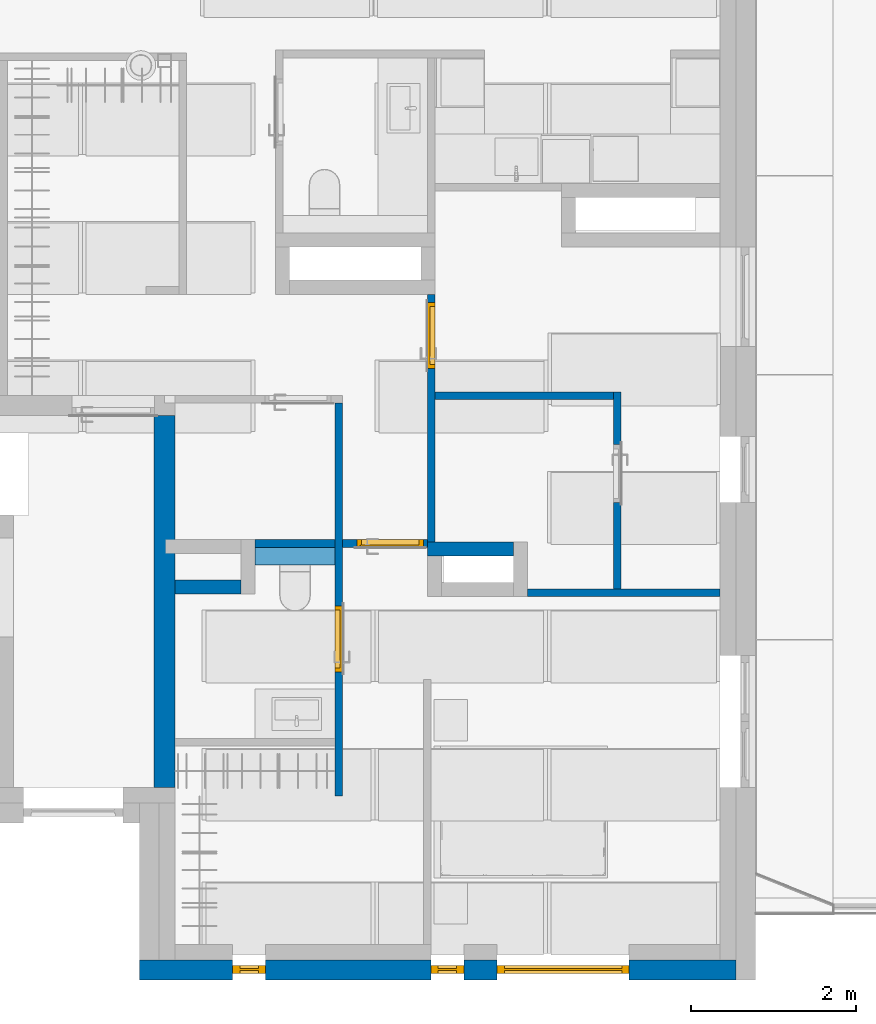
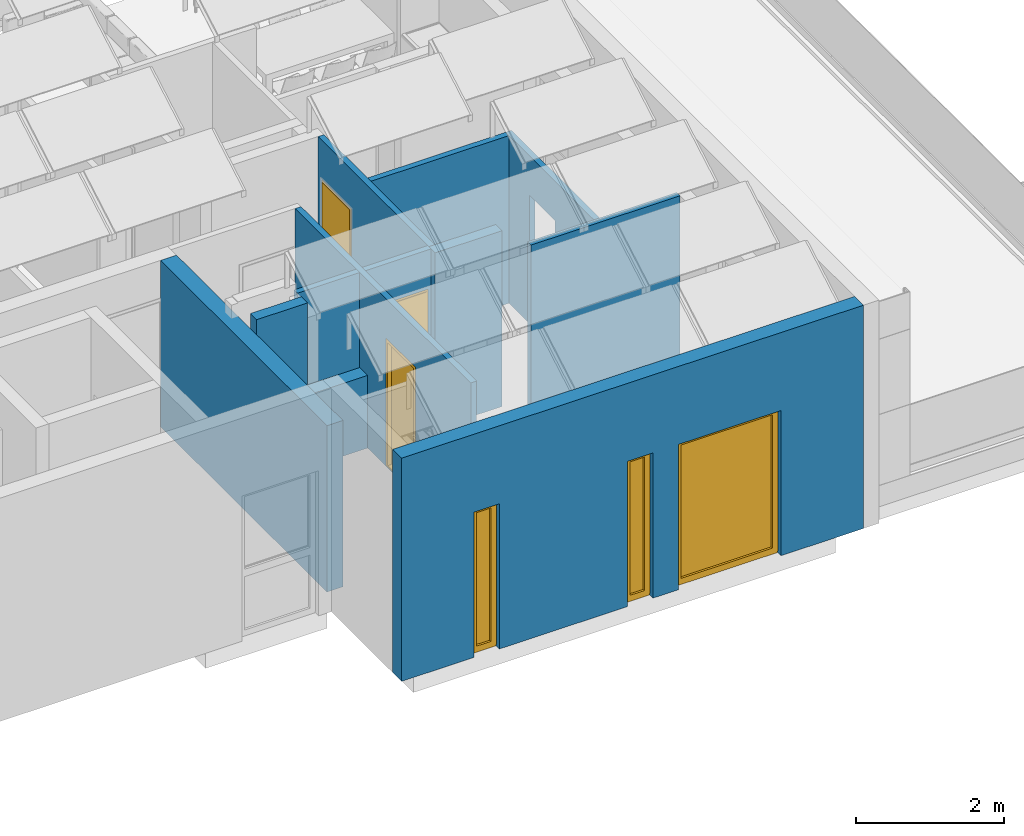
# One storey, part 3 of 57: 11 walls, 3 doors, 3 windows, 8 openings.
"""IFC2X3 building model written with IfcOpenShell, lengths in millimetres."""

import ifcopenshell
import ifcopenshell.guid

model = None  # the IFC model being written
_history = None  # IfcOwnerHistory: only IFC2X3 demands one
_inside = {}  # id of a spatial element -> (the spatial element, [elements in it])
_under = {}  # id of a project, library or spatial element -> (it, [spatial elements below it])
_declared = {}  # id of a project -> (the project, [libraries it declares])
_typed = {}  # id of a type object -> (the type object, [elements of that type])
_made_of = {}  # id of a material, layer set ... -> (it, [elements and type objects made of it])


def new_model(schema):
    """Start an empty IFC model of exactly this schema.

    Asked for "IFC4X3", IfcOpenShell would pick the latest addendum, in which some entities
    have other attributes; the version numbers below select the first issue.
    IFC2X3 requires an IfcOwnerHistory on every rooted entity: one is made here for all.
    """
    global model, _history
    if schema == "IFC4X3":
        model = ifcopenshell.file(schema_version=(4, 3, 0, 0))
    else:
        model = ifcopenshell.file(schema=schema)
    _inside.clear()
    _under.clear()
    _declared.clear()
    _typed.clear()
    _made_of.clear()
    _history = None
    if model.schema == "IFC2X3":
        org = make("IfcOrganization", Name="unknown")
        user = make(
            "IfcPersonAndOrganization",
            ThePerson=make("IfcPerson", FamilyName="unknown"),
            TheOrganization=org,
        )
        app = make(
            "IfcApplication",
            ApplicationDeveloper=org,
            Version="unknown",
            ApplicationFullName="unknown",
            ApplicationIdentifier="unknown",
        )
        _history = make(
            "IfcOwnerHistory",
            OwningUser=user,
            OwningApplication=app,
            ChangeAction="ADDED",
            CreationDate=0,
        )
    return model


def make(cls, **values):
    """One entity of the class cls with the attributes given. An attribute that is None is left unset."""
    return model.create_entity(
        cls, **{name: value for name, value in values.items() if value is not None}
    )


def entity(cls, *values):
    """Any entity or typed value of the class cls, its attributes in the order of the schema. None: left unset."""
    e = model.create_entity(cls)
    for i, value in enumerate(values):
        if value is not None:
            e[i] = value
    return e


def rooted(cls, **values):
    """An entity with a GlobalId (a new one), such as an element, a storey or a relation."""
    return make(cls, GlobalId=ifcopenshell.guid.new(), OwnerHistory=_history, **values)


def si_unit(unit_type, name, prefix=None):
    """IfcSIUnit, for example si_unit("LENGTHUNIT", "METRE", prefix="MILLI")."""
    return make("IfcSIUnit", UnitType=unit_type, Prefix=prefix, Name=name)


def converted_unit(unit_type, name, factor, base, dimensions=None, offset=None):
    """IfcConversionBasedUnit, such as the inch: factor (a typed value) times the base unit."""
    return make(
        "IfcConversionBasedUnit"
        if offset is None
        else "IfcConversionBasedUnitWithOffset",
        ConversionOffset=offset,
        Dimensions=None
        if dimensions is None
        else entity("IfcDimensionalExponents", *dimensions),
        UnitType=unit_type,
        Name=name,
        ConversionFactor=make(
            "IfcMeasureWithUnit", ValueComponent=factor, UnitComponent=base
        ),
    )


def assignment(units):
    """IfcUnitAssignment: the units of a project."""
    return None if units is None else make("IfcUnitAssignment", Units=units)


def point(xyz):
    """IfcCartesianPoint."""
    return None if xyz is None else make("IfcCartesianPoint", Coordinates=xyz)


def direction(xyz):
    """IfcDirection."""
    return None if xyz is None else make("IfcDirection", DirectionRatios=xyz)


def frame(location, z_axis=None, x_axis=None):
    """IfcAxis2Placement3D, a coordinate frame: its origin and axes. An axis left out is left unset."""
    return make(
        "IfcAxis2Placement3D",
        Location=point(location),
        Axis=direction(z_axis),
        RefDirection=direction(x_axis),
    )


def frame_2d(location, x_axis=None):
    """IfcAxis2Placement2D, a coordinate frame in the plane: its origin and x axis."""
    return make(
        "IfcAxis2Placement2D", Location=point(location), RefDirection=direction(x_axis)
    )


def origin():
    """The frame at (0, 0, 0) with its axes left unset."""
    return frame((0.0, 0.0, 0.0))


def place(relative_to, where):
    """IfcLocalPlacement: puts the frame where relative to a parent placement (None: the world)."""
    return make(
        "IfcLocalPlacement", PlacementRelTo=relative_to, RelativePlacement=where
    )


def context(
    kind, dimensions, precision=None, world=None, true_north=None, identifier=None
):
    """IfcGeometricRepresentationContext, for example the 3D "Model" context."""
    return make(
        "IfcGeometricRepresentationContext",
        ContextIdentifier=identifier,
        ContextType=kind,
        CoordinateSpaceDimension=dimensions,
        Precision=precision,
        WorldCoordinateSystem=world,
        TrueNorth=true_north,
    )


def subcontext(parent, identifier, kind, view, scale=None):
    """IfcGeometricRepresentationSubContext, for example "Body" below "Model"."""
    return make(
        "IfcGeometricRepresentationSubContext",
        ContextIdentifier=identifier,
        ContextType=kind,
        ParentContext=parent,
        TargetScale=scale,
        TargetView=view,
    )


def project(units=None, contexts=None):
    """IfcProject with its units and contexts."""
    return rooted(
        "IfcProject",
        Name="project",
        RepresentationContexts=contexts,
        UnitsInContext=assignment(units),
    )


def spatial(cls, under=None, at=None, **own):
    """A site, building, storey or space (cls), placed at a placement, below another one or the project."""
    s = rooted(cls, ObjectPlacement=at, **own)
    if under is not None:
        _under.setdefault(under.id(), (under, []))[1].append(s)
    return s


def profile(cls, at=None, kind="AREA", **sizes):
    """A parametric profile (cls). Its sizes go by their IFC names, for example OverallWidth=200.0."""
    return make(cls, ProfileType=kind, Position=at, **sizes)


def rectangle(**sizes):
    """IfcRectangleProfileDef."""
    return profile("IfcRectangleProfileDef", **sizes)


def extrude(swept, where, along, depth):
    """IfcExtrudedAreaSolid: the profile swept, set in the frame where, extruded along a direction by depth."""
    return make(
        "IfcExtrudedAreaSolid",
        SweptArea=swept,
        Position=where,
        ExtrudedDirection=direction(along),
        Depth=depth,
    )


def faces_of(points, faces, orient=None, outer=None):
    """IfcFace entities. A face is a list of loops; a loop is a list of indices into points, from 0.

    orient and outer hold one flag for each loop. By default every Orientation is true, the
    first loop of a face is its IfcFaceOuterBound and the others are IfcFaceBound.
    """
    made = []
    for i, loops in enumerate(faces):
        bounds = []
        for j, loop in enumerate(loops):
            is_outer = j == 0 if outer is None else outer[i][j]
            bounds.append(
                make(
                    "IfcFaceOuterBound" if is_outer else "IfcFaceBound",
                    Bound=make("IfcPolyLoop", Polygon=[points[k] for k in loop]),
                    Orientation=True if orient is None else orient[i][j],
                )
            )
        made.append(make("IfcFace", Bounds=bounds))
    return made


def faceted_brep(points, faces, orient=None, outer=None, voids=None):
    """IfcFacetedBrep: a solid bounded by flat faces; with voids (closed shells), ...WithVoids."""
    shared = [point(p) for p in points]
    hull = make("IfcClosedShell", CfsFaces=faces_of(shared, faces, orient, outer))
    if voids is None:
        return make("IfcFacetedBrep", Outer=hull)
    return make(
        "IfcFacetedBrepWithVoids",
        Outer=hull,
        Voids=[
            make(cls, CfsFaces=faces_of(shared, fs, o, b)) for cls, fs, o, b in voids
        ],
    )


def shape(context_of_items, identifier, shape_type, items):
    """IfcShapeRepresentation: the items that make up one representation, for example the "Body"."""
    return make(
        "IfcShapeRepresentation",
        ContextOfItems=context_of_items,
        RepresentationIdentifier=identifier,
        RepresentationType=shape_type,
        Items=items,
    )


def source(mapping_origin, context_of_items, identifier, shape_type, items):
    """IfcRepresentationMap: a shape defined once, which mapped items show again and again."""
    return make(
        "IfcRepresentationMap",
        MappingOrigin=mapping_origin,
        MappedRepresentation=shape(context_of_items, identifier, shape_type, items),
    )


def transform(
    local_origin,
    x_axis=None,
    y_axis=None,
    z_axis=None,
    scale=None,
    scale2=None,
    scale3=None,
    uniform=True,
):
    """IfcCartesianTransformationOperator3D, or its non-uniform kind. x_axis, y_axis, z_axis: its Axis1, 2, 3."""
    if uniform:
        return make(
            "IfcCartesianTransformationOperator3D",
            Axis1=direction(x_axis),
            Axis2=direction(y_axis),
            LocalOrigin=point(local_origin),
            Scale=scale,
            Axis3=direction(z_axis),
        )
    return make(
        "IfcCartesianTransformationOperator3DnonUniform",
        Axis1=direction(x_axis),
        Axis2=direction(y_axis),
        LocalOrigin=point(local_origin),
        Scale=scale,
        Axis3=direction(z_axis),
        Scale2=scale2,
        Scale3=scale3,
    )


def mapped(mapping_source, mapping_target):
    """IfcMappedItem: shows the shape of a source again, moved by a transform."""
    return make(
        "IfcMappedItem", MappingSource=mapping_source, MappingTarget=mapping_target
    )


def material(Name=None, Category=None):
    """IfcMaterial."""
    return make("IfcMaterial", Name=Name, Category=Category)


def material_list(materials):
    """IfcMaterialList."""
    return make("IfcMaterialList", Materials=materials)


def layer(
    of_material, thickness, ventilated=None, Name=None, Category=None, Priority=None
):
    """IfcMaterialLayer: one layer of a wall or slab, of a material (None: an air gap)."""
    return make(
        "IfcMaterialLayer",
        Material=of_material,
        LayerThickness=thickness,
        IsVentilated=ventilated,
        Name=Name,
        Category=Category,
        Priority=Priority,
    )


def layer_set(layers, Name=None):
    """IfcMaterialLayerSet."""
    return make("IfcMaterialLayerSet", MaterialLayers=layers, LayerSetName=Name)


def layer_usage(for_layer_set, set_direction, sense, offset, extent=None):
    """IfcMaterialLayerSetUsage: how a layer set lies in its element."""
    return make(
        "IfcMaterialLayerSetUsage",
        ForLayerSet=for_layer_set,
        LayerSetDirection=set_direction,
        DirectionSense=sense,
        OffsetFromReferenceLine=offset,
        ReferenceExtent=extent,
    )


def made_of(thing, what):
    """Note that an element or type object is made of a material, layer set ...; save() writes the relation."""
    if what is not None:
        _made_of.setdefault(what.id(), (what, []))[1].append(thing)
    return thing


def type_object(cls, material=None, **own):
    """A type object (cls), such as IfcWallType, which elements share."""
    return made_of(rooted(cls, **own), material)


def type_shapes(of_type, sources):
    """Give a type object the sources (RepresentationMaps) that its elements show as mapped items."""
    of_type.RepresentationMaps = sources


def element(
    cls,
    number,
    at=None,
    inside=None,
    cuts=None,
    type_object=None,
    material=None,
    context=None,
    identifier="Body",
    shape_type=None,
    held_by="IfcProductDefinitionShape",
    body=None,
    shapes=None,
    **own,
):
    """One element of the class cls, such as IfcWall. Its Tag is "e" and its number.

    at: its placement. inside: the storey or other place that contains it. cuts: it is an
    opening in that element (IfcRelVoidsElement). A single representation is given by context,
    identifier, shape_type and body (its items); several are given by shapes. held_by: the class
    of the entity that holds the representations. save() writes the other relations.
    """
    e = rooted(cls, Tag="e%d" % number, ObjectPlacement=at, **own)
    if body is not None:
        shapes = [shape(context, identifier, shape_type, body)]
    if shapes is not None:
        e.Representation = make(held_by, Representations=shapes)
    if inside is not None:
        _inside.setdefault(inside.id(), (inside, []))[1].append(e)
    if cuts is not None:
        rooted(
            "IfcRelVoidsElement", RelatingBuildingElement=cuts, RelatedOpeningElement=e
        )
    if type_object is not None:
        _typed.setdefault(type_object.id(), (type_object, []))[1].append(e)
    return made_of(e, material)


def fill(opening, filler):
    """IfcRelFillsElement: the door or window that sits in an opening."""
    return rooted(
        "IfcRelFillsElement",
        RelatingOpeningElement=opening,
        RelatedBuildingElement=filler,
    )


def aggregate(whole, parts):
    """IfcRelAggregates: a whole, such as a stair, and the parts it consists of."""
    return rooted("IfcRelAggregates", RelatingObject=whole, RelatedObjects=parts)


def save(model, path):
    """Write the relations noted so far, then the file.

    IfcRelAggregates (storeys below a building ...), IfcRelContainedInSpatialStructure (elements
    in a storey), IfcRelDefinesByType, IfcRelAssociatesMaterial and IfcRelDeclares: one each for
    every whole, place, type object, material and project.
    """
    for whole, parts in _under.values():
        aggregate(whole, parts)
    for where, things in _inside.values():
        rooted(
            "IfcRelContainedInSpatialStructure",
            RelatedElements=things,
            RelatingStructure=where,
        )
    for kind, things in _typed.values():
        rooted("IfcRelDefinesByType", RelatedObjects=things, RelatingType=kind)
    for what, things in _made_of.values():
        rooted("IfcRelAssociatesMaterial", RelatedObjects=things, RelatingMaterial=what)
    for by, libraries in _declared.values():
        rooted("IfcRelDeclares", RelatingContext=by, RelatedDefinitions=libraries)
    model.write(path)


model = new_model("IFC2X3")

# Units and contexts
model_context = context("Model", 3, precision=0.01, world=origin(), true_north=direction((6.123233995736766e-17, 1.0)))
plan_context = context("Plan", 3, precision=0.01, world=origin(), true_north=direction((6.123233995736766e-17, 1.0)))
body_context = subcontext(model_context, "Body", "Model", "MODEL_VIEW")
ifc_project = project(units=[si_unit("LENGTHUNIT", "METRE", prefix="MILLI"), converted_unit("PLANEANGLEUNIT", "DEGREE", entity("IfcPlaneAngleMeasure", 0.017453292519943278), si_unit("PLANEANGLEUNIT", "RADIAN"), dimensions=[0, 0, 0, 0, 0, 0, 0]), si_unit("AREAUNIT", "SQUARE_METRE")], contexts=[model_context, plan_context])

# Site, building, storey
site_placement = place(None, origin())
site = spatial("IfcSite", under=ifc_project, at=site_placement, Name="Default", CompositionType="ELEMENT")
building_placement = place(site_placement, origin())
building = spatial("IfcBuilding", under=site, at=building_placement, CompositionType="ELEMENT")
storey_placement = place(building_placement, frame((0.0, 0.0, 12811.000000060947)))
storey = spatial("IfcBuildingStorey", under=building, at=storey_placement, Name="5K", CompositionType="ELEMENT", Elevation=12811.000000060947)

# Wall
ifc_material_1 = material(Name="_K. Väisviimistlus. Krohv. Valge")
ifc_layer_1 = layer(ifc_material_1, 5.0)
ifc_material_2 = material(Name="_K. Müüritis. Väikeplokk. Betoon-õõnesplokk")
ifc_layer_2 = layer(ifc_material_2, 240.0)
ifc_layer_3 = layer(ifc_material_1, 5.0)
ifc_layer_set_1 = layer_set([ifc_layer_1, ifc_layer_2, ifc_layer_3], Name="Basic Wall:SS-01.240")
ifc_layer_usage_1 = layer_usage(ifc_layer_set_1, "AXIS2", "NEGATIVE", 125.00000000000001)
wall_type_1 = type_object("IfcWallType", Name="Basic Wall:SS-01.240", PredefinedType="STANDARD", material=ifc_layer_set_1)
wall_1_placement = place(storey_placement, frame((5174.995060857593, 1900.0, 0.0), z_axis=(0.0, 0.0, 1.0), x_axis=(0.0, 1.0, 0.0)))
element("IfcWallStandardCase", 1, at=wall_1_placement, inside=storey, type_object=wall_type_1, material=ifc_layer_usage_1, Name="Basic Wall:SS-01.240", ObjectType="Basic Wall:SS-01.240", context=body_context, shape_type="SweptSolid", body=[
    extrude(rectangle(XDim=4504.999959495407, YDim=249.9999999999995, at=frame_2d((2252.4999797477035, 5.684341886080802e-14), x_axis=(-1.0, 0.0))), origin(), (0.0, 0.0, 1.0), 2749.998712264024),
])

# Wall, openings, windows
ifc_layer_4 = layer(ifc_material_1, 10.0)
ifc_material_3 = material(Name="_K. Soojustus. EPS Silver")
ifc_layer_5 = layer(ifc_material_3, 230.0)
ifc_layer_set_2 = layer_set([ifc_layer_4, ifc_layer_5], Name="Basic Wall:VS-01")
ifc_layer_usage_2 = layer_usage(ifc_layer_set_2, "AXIS2", "NEGATIVE", 120.0)
wall_type_2 = type_object("IfcWallType", Name="Basic Wall:VS-01", PredefinedType="STANDARD", material=ifc_layer_set_2)
wall_2_placement = place(storey_placement, frame((12090.0, -310.0, 0.0), z_axis=(0.0, 0.0, 1.0), x_axis=(-1.0, 0.0, 0.0)))
wall_2 = element("IfcWallStandardCase", 2, at=wall_2_placement, inside=storey, type_object=wall_type_2, material=ifc_layer_usage_2, Name="Basic Wall:VS-01", ObjectType="Basic Wall:VS-01", context=body_context, shape_type="SweptSolid", body=[
    extrude(rectangle(XDim=7220.000000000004, YDim=240.00000000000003, at=frame_2d((3610.000000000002, 1.4210854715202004e-14), x_axis=(-1.0, 0.0))), origin(), (0.0, 0.0, 1.0), 3688.9999999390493),
])
opening_1_placement = place(wall_2_placement, frame((12090.0, -310.0, 0.0), z_axis=(0.0, 0.0, 1.0), x_axis=(-1.0, 0.0, 0.0)))
opening_1 = element("IfcOpeningElement", 3, at=opening_1_placement, cuts=wall_2, Name="Basic Wall:VS-01", ObjectType="Opening", context=body_context, shape_type="Brep", body=[
    faceted_brep([(6000.0, -450.0, 2400.0), (6000.0, 244.0, 2400.0), (6000.0, 244.0, 0.0), (6000.0, -340.0, 0.0), (6000.0, -350.0, 0.0), (6000.0, -450.0, 0.0), (6400.0, -450.0, 2400.0), (6400.0, 244.0, 2400.0), (6400.0, -450.0, 0.0), (6400.0, -350.0, 0.0), (6400.0, -340.0, 0.0), (6400.0, 244.0, 0.0)], [[[0, 1, 2, 3, 4, 5]], [[6, 7, 1, 0]], [[8, 9, 10, 11, 7, 6]], [[5, 4, 3, 2, 11, 10, 9, 8]], [[6, 0, 5, 8]], [[7, 11, 2, 1]]]),
])
opening_2_placement = place(wall_2_placement, frame((12090.0, -310.0, 0.0), z_axis=(0.0, 0.0, 1.0), x_axis=(-1.0, 0.0, 0.0)))
opening_2 = element("IfcOpeningElement", 4, at=opening_2_placement, cuts=wall_2, Name="Basic Wall:VS-01", ObjectType="Opening", context=body_context, shape_type="Brep", body=[
    faceted_brep([(8400.0, -450.0, 2400.0), (8400.0, 244.0, 2400.0), (8400.0, 244.0, 0.0), (8400.0, -340.0, 0.0), (8400.0, -350.0, 0.0), (8400.0, -450.0, 0.0), (8800.0, -450.0, 2400.0), (8800.0, 244.0, 2400.0), (8800.0, -450.0, 0.0), (8800.0, -350.0, 0.0), (8800.0, -340.0, 0.0), (8800.0, 244.0, 0.0)], [[[0, 1, 2, 3, 4, 5]], [[6, 7, 1, 0]], [[8, 9, 10, 11, 7, 6]], [[5, 4, 3, 2, 11, 10, 9, 8]], [[6, 0, 5, 8]], [[7, 11, 2, 1]]]),
])
opening_3_placement = place(wall_2_placement, frame((12090.0, -310.0, 0.0), z_axis=(0.0, 0.0, 1.0), x_axis=(-1.0, 0.0, 0.0)))
opening_3 = element("IfcOpeningElement", 5, at=opening_3_placement, cuts=wall_2, Name="Basic Wall:VS-01", ObjectType="Opening", context=body_context, shape_type="Brep", body=[
    faceted_brep([(9200.0, -450.0, 2400.0), (9200.0, 244.0, 2400.0), (9200.0, 244.0, 0.0), (9200.0, -340.0, 0.0), (9200.0, -350.0, 0.0), (9200.0, -450.0, 0.0), (10800.0, -450.0, 2400.0), (10800.0, 244.0, 2400.0), (10800.0, -450.0, 0.0), (10800.0, -350.0, 0.0), (10800.0, -340.0, 0.0), (10800.0, 244.0, 0.0)], [[[0, 1, 2, 3, 4, 5]], [[6, 7, 1, 0]], [[8, 9, 10, 11, 7, 6]], [[5, 4, 3, 2, 11, 10, 9, 8]], [[6, 0, 5, 8]], [[7, 11, 2, 1]]]),
])
ifc_material_4 = material(Name="_K. Avatäited. Raam. PVC. Valge")
ifc_material_5 = material(Name="_K. Klaas. Pakett")
ifc_material_6 = material(Name="_K. Avatäited. Raam. PVC. RAL9005")
ifc_material_list = material_list([ifc_material_4, ifc_material_5, ifc_material_6])
window_style_1 = type_object("IfcWindowStyle", Name="HR_Window_Generic_Rectangle_1x1:A-01.400x2400.ma", ConstructionType="NOTDEFINED", OperationType="NOTDEFINED", ParameterTakesPrecedence=False, Sizeable=False, material=ifc_material_list)
shared_shape_1 = source(origin(), body_context, "Body", "Brep", [
    faceted_brep([(88.0, -194.0, 2312.0), (312.0, -194.0, 2312.0), (312.0, -194.0, 108.0), (88.0, -194.0, 108.0), (342.0, -194.0, 2342.0), (58.0, -194.0, 2342.0), (58.0, -194.0, 78.0), (342.0, -194.0, 78.0), (88.0, -159.0, 2312.0), (88.0, -159.0, 108.0), (312.0, -159.0, 108.0), (342.0, -159.0, 2342.0), (342.0, -159.0, 78.0), (58.0, -159.0, 78.0), (58.0, -159.0, 2342.0), (312.0, -159.0, 2312.0)], [[[0, 1, 2, 3], [4, 5, 6, 7]], [[8, 0, 3, 9]], [[9, 3, 2, 10]], [[11, 12, 13, 14], [15, 8, 9, 10]], [[1, 15, 10, 2]], [[6, 5, 14, 13]], [[7, 6, 13, 12]], [[4, 7, 12, 11]], [[15, 1, 0, 8]], [[5, 4, 11, 14]]], outer=[[False, True], [True], [True], [True, False], [True], [True], [True], [True], [True], [True]]),
    faceted_brep([(342.0, -159.0, 2342.0), (58.0, -159.0, 2342.0), (58.0, -159.0, 78.0), (342.0, -159.0, 78.0), (58.0, -134.0, 2342.0), (58.0, -134.0, 78.0), (342.0, -134.0, 78.0), (342.0, -134.0, 2342.0)], [[[0, 1, 2, 3]], [[2, 1, 4, 5]], [[3, 2, 5, 6]], [[0, 3, 6, 7]], [[7, 6, 5, 4]], [[1, 0, 7, 4]]]),
    faceted_brep([(342.0, -134.0, 78.0), (58.0, -134.0, 78.0), (58.0, -194.0, 78.0), (342.0, -194.0, 78.0), (58.0, -134.0, 2342.0), (58.0, -194.0, 2342.0), (342.0, -134.0, 2342.0), (342.0, -194.0, 2342.0), (88.0, -100.0, 108.0), (88.0, -100.0, 2312.0), (88.0, -134.0, 2312.0), (88.0, -134.0, 108.0), (312.0, -100.0, 108.0), (312.0, -134.0, 108.0), (312.0, -100.0, 2312.0), (312.0, -134.0, 2312.0), (0.0, -100.0, 2400.0), (400.0, -100.0, 2400.0), (400.0, -100.0, 30.0), (0.0, -100.0, 30.0), (400.0, -194.0, 2400.0), (0.0, -194.0, 2400.0), (0.0, -194.0, 30.0), (400.0, -194.0, 30.0), (0.0, -110.0, 30.0), (0.0, -110.0, 0.0), (0.0, -184.0, 0.0), (0.0, -184.0, 30.0), (400.0, -184.0, 30.0), (400.0, -184.0, 0.0), (400.0, -110.0, 0.0), (400.0, -110.0, 30.0)], [[[0, 1, 2, 3]], [[1, 4, 5, 2]], [[6, 0, 3, 7]], [[8, 9, 10, 11]], [[12, 8, 11, 13]], [[14, 12, 13, 15]], [[16, 17, 18, 19], [9, 8, 12, 14]], [[20, 21, 22, 23], [7, 3, 2, 5]], [[21, 16, 19, 24, 25, 26, 27, 22]], [[27, 28, 23, 22]], [[17, 20, 23, 28, 29, 30, 31, 18]], [[31, 24, 19, 18]], [[24, 31, 30, 25]], [[25, 30, 29, 26]], [[28, 27, 26, 29]], [[4, 6, 7, 5]], [[9, 14, 15, 10]], [[21, 20, 17, 16]], [[10, 15, 13, 11], [0, 6, 4, 1]]], outer=[[True], [True], [True], [True], [True], [True], [True, False], [True, False], [True], [True], [True], [True], [True], [True], [True], [True], [True], [True], [False, True]]),
])
type_shapes(window_style_1, [shared_shape_1])
window_1_placement = place(opening_1_placement, frame((6400.0, -450.0, 0.0), z_axis=(0.0, 0.0, 1.0), x_axis=(-1.0, 0.0, 0.0)))
window_1 = element("IfcWindow", 6, at=window_1_placement, inside=storey, type_object=window_style_1, material=ifc_material_list, Name="HR_Window_Generic_Rectangle_1x1:A-01.400x2400.ma", ObjectType="HR_Window_Generic_Rectangle_1x1:A-01.400x2400.ma", OverallHeight=2465.0000000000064, OverallWidth=400.0000000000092, context=body_context, shape_type="MappedRepresentation", body=[
    mapped(shared_shape_1, transform((0.0, 0.0, 0.0), scale=1.0)),
])
fill(opening_1, window_1)
window_2_placement = place(opening_2_placement, frame((8800.0, -450.0, 0.0), z_axis=(0.0, 0.0, 1.0), x_axis=(-1.0, 0.0, 0.0)))
window_2 = element("IfcWindow", 7, at=window_2_placement, inside=storey, type_object=window_style_1, material=ifc_material_list, Name="HR_Window_Generic_Rectangle_1x1:A-01.400x2400.ma", ObjectType="HR_Window_Generic_Rectangle_1x1:A-01.400x2400.ma", OverallHeight=2465.0000000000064, OverallWidth=400.0000000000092, context=body_context, shape_type="MappedRepresentation", body=[
    mapped(shared_shape_1, transform((0.0, 0.0, 0.0), scale=1.0)),
])
fill(opening_2, window_2)
window_style_2 = type_object("IfcWindowStyle", Name="HR_Window_Generic_Rectangle_1x1:A-04.1600x2400.ma", ConstructionType="NOTDEFINED", OperationType="NOTDEFINED", ParameterTakesPrecedence=False, Sizeable=False, material=ifc_material_list)
shared_shape_2 = source(origin(), body_context, "Body", "Brep", [
    faceted_brep([(88.0, -194.0, 2312.0), (1512.0, -194.0, 2312.0), (1512.0, -194.0, 108.0), (88.0, -194.0, 108.0), (1542.0, -194.0, 2342.0), (58.0, -194.0, 2342.0), (58.0, -194.0, 78.0), (1542.0, -194.0, 78.0), (88.0, -159.0, 2312.0), (88.0, -159.0, 108.0), (1512.0, -159.0, 108.0), (1542.0, -159.0, 2342.0), (1542.0, -159.0, 78.0), (58.0, -159.0, 78.0), (58.0, -159.0, 2342.0), (1512.0, -159.0, 2312.0)], [[[0, 1, 2, 3], [4, 5, 6, 7]], [[8, 0, 3, 9]], [[9, 3, 2, 10]], [[11, 12, 13, 14], [15, 8, 9, 10]], [[1, 15, 10, 2]], [[6, 5, 14, 13]], [[7, 6, 13, 12]], [[4, 7, 12, 11]], [[15, 1, 0, 8]], [[5, 4, 11, 14]]], outer=[[False, True], [True], [True], [True, False], [True], [True], [True], [True], [True], [True]]),
    faceted_brep([(1542.0, -159.0, 2342.0), (58.0, -159.0, 2342.0), (58.0, -159.0, 78.0), (1542.0, -159.0, 78.0), (58.0, -134.0, 2342.0), (58.0, -134.0, 78.0), (1542.0, -134.0, 78.0), (1542.0, -134.0, 2342.0)], [[[0, 1, 2, 3]], [[2, 1, 4, 5]], [[3, 2, 5, 6]], [[0, 3, 6, 7]], [[7, 6, 5, 4]], [[1, 0, 7, 4]]]),
    faceted_brep([(1542.0, -134.0, 78.0), (58.0, -134.0, 78.0), (58.0, -194.0, 78.0), (1542.0, -194.0, 78.0), (58.0, -134.0, 2342.0), (58.0, -194.0, 2342.0), (1542.0, -134.0, 2342.0), (1542.0, -194.0, 2342.0), (88.0, -100.0, 108.0), (88.0, -100.0, 2312.0), (88.0, -134.0, 2312.0), (88.0, -134.0, 108.0), (1512.0, -100.0, 108.0), (1512.0, -134.0, 108.0), (1512.0, -100.0, 2312.0), (1512.0, -134.0, 2312.0), (0.0, -100.0, 2400.0), (1600.0, -100.0, 2400.0), (1600.0, -100.0, 30.0), (0.0, -100.0, 30.0), (1600.0, -194.0, 2400.0), (0.0, -194.0, 2400.0), (0.0, -194.0, 30.0), (1600.0, -194.0, 30.0), (0.0, -110.0, 30.0), (0.0, -110.0, 0.0), (0.0, -184.0, 0.0), (0.0, -184.0, 30.0), (1600.0, -184.0, 30.0), (1600.0, -184.0, 0.0), (1600.0, -110.0, 0.0), (1600.0, -110.0, 30.0)], [[[0, 1, 2, 3]], [[1, 4, 5, 2]], [[6, 0, 3, 7]], [[8, 9, 10, 11]], [[12, 8, 11, 13]], [[14, 12, 13, 15]], [[16, 17, 18, 19], [9, 8, 12, 14]], [[20, 21, 22, 23], [7, 3, 2, 5]], [[21, 16, 19, 24, 25, 26, 27, 22]], [[27, 28, 23, 22]], [[17, 20, 23, 28, 29, 30, 31, 18]], [[31, 24, 19, 18]], [[24, 31, 30, 25]], [[25, 30, 29, 26]], [[28, 27, 26, 29]], [[4, 6, 7, 5]], [[9, 14, 15, 10]], [[21, 20, 17, 16]], [[10, 15, 13, 11], [0, 6, 4, 1]]], outer=[[True], [True], [True], [True], [True], [True], [True, False], [True, False], [True], [True], [True], [True], [True], [True], [True], [True], [True], [True], [False, True]]),
])
type_shapes(window_style_2, [shared_shape_2])
window_3_placement = place(opening_3_placement, frame((10800.0, -450.0, 0.0), z_axis=(0.0, 0.0, 1.0), x_axis=(-1.0, 0.0, 0.0)))
window_3 = element("IfcWindow", 8, at=window_3_placement, inside=storey, type_object=window_style_2, material=ifc_material_list, Name="HR_Window_Generic_Rectangle_1x1:A-04.1600x2400.ma", ObjectType="HR_Window_Generic_Rectangle_1x1:A-04.1600x2400.ma", OverallHeight=2465.0000000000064, OverallWidth=1600.0000000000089, context=body_context, shape_type="MappedRepresentation", body=[
    mapped(shared_shape_2, transform((0.0, 0.0, 0.0), scale=1.0)),
])
fill(opening_3, window_3)

# Wall
ifc_material_7 = material(Name="_K. Ehitusplaat. Kipsplaat. Erikõva")
ifc_layer_6 = layer(ifc_material_7, 13.000000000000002)
ifc_material_8 = material(Name="_K. Soojustus. Mineraalvill")
ifc_layer_7 = layer(ifc_material_8, 66.0)
ifc_layer_8 = layer(ifc_material_7, 13.000000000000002)
ifc_layer_set_3 = layer_set([ifc_layer_6, ifc_layer_7, ifc_layer_8], Name="Basic Wall:SS-401")
ifc_layer_usage_3 = layer_usage(ifc_layer_set_3, "AXIS2", "NEGATIVE", 46.00000000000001)
wall_type_3 = type_object("IfcWallType", Name="Basic Wall:SS-401", PredefinedType="STANDARD", material=ifc_layer_set_3)
wall_3_placement = place(storey_placement, frame((9570.0, 4256.0, -20.0)))
element("IfcWallStandardCase", 9, at=wall_3_placement, inside=storey, type_object=wall_type_3, material=ifc_layer_usage_3, Name="Basic Wall:SS-401", ObjectType="Basic Wall:SS-401", context=body_context, shape_type="SweptSolid", body=[
    extrude(rectangle(XDim=2330.0000000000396, YDim=91.99999999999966, at=frame_2d((1165.0000000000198, -4.618527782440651e-14), x_axis=(-1.0, 0.0))), origin(), (0.0, 0.0, 1.0), 2769.998712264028),
])

# Wall, opening, door
ifc_layer_usage_4 = layer_usage(ifc_layer_set_3, "AXIS2", "NEGATIVE", 46.00000000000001)
wall_4_placement = place(storey_placement, frame((8404.0, 4870.0, -20.0), z_axis=(0.0, 0.0, 1.0), x_axis=(0.0, 1.0, 0.0)))
wall_4 = element("IfcWallStandardCase", 10, at=wall_4_placement, inside=storey, type_object=wall_type_3, material=ifc_layer_usage_4, Name="Basic Wall:SS-401", ObjectType="Basic Wall:SS-401", context=body_context, shape_type="SweptSolid", body=[
    extrude(rectangle(XDim=2999.999999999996, YDim=92.00000000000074, at=frame_2d((1499.999999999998, 3.375077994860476e-13), x_axis=(-1.0, 0.0))), origin(), (0.0, 0.0, 1.0), 2769.998712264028),
])
opening_4_placement = place(wall_4_placement, frame((-4870.0, 8404.0, 20.0), z_axis=(0.0, 0.0, 1.0), x_axis=(0.0, -1.0, 0.0)))
opening_4 = element("IfcOpeningElement", 11, at=opening_4_placement, cuts=wall_4, Name="Basic Wall:SS-401", ObjectType="Opening", context=body_context, shape_type="Brep", body=[
    faceted_brep([(9450.0, 7770.0, 2100.0), (9450.0, 6970.0, 2100.0), (9450.0, 6970.0, 0.0), (9450.0, 7770.0, 0.0), (7358.0, 7770.0, 0.0), (7358.0, 7770.0, 2100.0), (7358.0, 6970.0, 0.0), (7358.0, 6970.0, 2100.0)], [[[0, 1, 2, 3]], [[3, 4, 5, 0]], [[2, 6, 4, 3]], [[1, 7, 6, 2]], [[5, 7, 1, 0]], [[7, 5, 4, 6]]]),
])
ifc_material_9 = material(Name="_K. Puit. Peitsitud ja lakitud")
door_style_1 = type_object("IfcDoorStyle", Name="HR_Generic_Hinged_Single:Default. Manteluks lävepakuga. 800 x 2100 mm. Left", ConstructionType="NOTDEFINED", OperationType="NOTDEFINED", ParameterTakesPrecedence=False, Sizeable=False, material=ifc_material_9)
shared_shape_3 = source(origin(), body_context, "Body", "Brep", [
    faceted_brep([(765.0, -1000.0, 20.0), (35.0, -1000.0, 20.0), (35.0, -1030.0, 20.0), (50.0, -1030.0, 20.0), (50.0, -1092.0, 20.0), (750.0, -1092.0, 20.0), (750.0, -1030.0, 20.0), (765.0, -1030.0, 20.0), (35.0, -1000.0, 0.0), (765.0, -1000.0, 0.0), (765.0, -1030.0, 0.0), (750.0, -1030.0, 0.0), (750.0, -1092.0, 0.0), (50.0, -1092.0, 0.0), (50.0, -1030.0, 0.0), (35.0, -1030.0, 0.0)], [[[0, 1, 2, 3, 4, 5, 6, 7]], [[8, 9, 10, 11, 12, 13, 14, 15]], [[1, 0, 9, 8]], [[5, 4, 13, 12]], [[2, 1, 8, 15]], [[0, 7, 10, 9]], [[3, 14, 13, 4]], [[14, 3, 2, 15]], [[6, 11, 10, 7]], [[11, 6, 5, 12]]]),
    faceted_brep([(37.0, -1030.0, 2060.0), (37.0, -1030.0, 25.0), (763.0, -1030.0, 25.0), (763.0, -1030.0, 2060.0), (27.0, -990.0, 25.0), (27.0, -990.0, 2070.0), (773.0, -990.0, 2070.0), (773.0, -990.0, 25.0), (37.0, -1000.0, 2060.0), (37.0, -1000.0, 25.0), (27.0, -1000.0, 25.0), (773.0, -1000.0, 25.0), (763.0, -1000.0, 25.0), (763.0, -1000.0, 2060.0), (27.0, -1000.0, 2070.0), (773.0, -1000.0, 2070.0)], [[[0, 1, 2, 3]], [[4, 5, 6, 7]], [[1, 0, 8, 9]], [[2, 1, 9, 10, 4, 7, 11, 12]], [[3, 2, 12, 13]], [[0, 3, 13, 8]], [[14, 10, 9, 8, 13, 12, 11, 15]], [[6, 5, 14, 15]], [[7, 6, 15, 11]], [[5, 4, 10, 14]]]),
    faceted_brep([(800.0, -1092.0, 0.0), (750.0, -1092.0, 0.0), (750.0, -1030.0, 0.0), (765.0, -1030.0, 0.0), (765.0, -1000.0, 0.0), (800.0, -1000.0, 0.0), (800.0, -1092.0, 2100.0), (0.0, -1092.0, 2100.0), (0.0, -1092.0, 0.0), (50.0, -1092.0, 0.0), (50.0, -1092.0, 2050.0), (750.0, -1092.0, 2050.0), (750.0, -1030.0, 2050.0), (35.0, -1030.0, 2065.0), (765.0, -1030.0, 2065.0), (50.0, -1030.0, 2050.0), (50.0, -1030.0, 0.0), (35.0, -1030.0, 0.0), (765.0, -1000.0, 2065.0), (0.0, -1000.0, 0.0), (0.0, -1000.0, 2100.0), (800.0, -1000.0, 2100.0), (35.0, -1000.0, 2065.0), (35.0, -1000.0, 0.0)], [[[0, 1, 2, 3, 4, 5]], [[1, 0, 6, 7, 8, 9, 10, 11]], [[1, 11, 12, 2]], [[13, 14, 3, 2, 12, 15, 16, 17]], [[3, 14, 18, 4]], [[19, 20, 21, 5, 4, 18, 22, 23]], [[0, 5, 21, 6]], [[8, 19, 23, 17, 16, 9]], [[19, 8, 7, 20]], [[13, 17, 23, 22]], [[10, 9, 16, 15]], [[7, 6, 21, 20]], [[11, 10, 15, 12]], [[14, 13, 22, 18]]]),
])
type_shapes(door_style_1, [shared_shape_3])
door_1_placement = place(opening_4_placement, frame((7358.0, 6970.0, 0.0), z_axis=(0.0, 0.0, 1.0), x_axis=(0.0, 1.0, 0.0)))
door_1 = element("IfcDoor", 12, at=door_1_placement, inside=storey, type_object=door_style_1, material=ifc_material_9, Name="HR_Generic_Hinged_Single:Default. Manteluks lävepakuga. 800 x 2100 mm. Left", ObjectType="HR_Generic_Hinged_Single:Default. Manteluks lävepakuga. 800 x 2100 mm. Left", OverallHeight=2130.000000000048, OverallWidth=860.0000000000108, context=body_context, shape_type="MappedRepresentation", body=[
    mapped(shared_shape_3, transform((0.0, 0.0, 0.0), scale=1.0)),
])
fill(opening_4, door_1)

ifc_layer_usage_5 = layer_usage(ifc_layer_set_3, "AXIS2", "NEGATIVE", 46.00000000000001)
wall_5_placement = place(storey_placement, frame((7286.0, 1800.0, -20.0), z_axis=(0.0, 0.0, 1.0), x_axis=(0.0, 1.0, 0.0)))
wall_5 = element("IfcWallStandardCase", 13, at=wall_5_placement, inside=storey, type_object=wall_type_3, material=ifc_layer_usage_5, Name="Basic Wall:SS-401", ObjectType="Basic Wall:SS-401", context=body_context, shape_type="SweptSolid", body=[
    extrude(rectangle(XDim=4752.999959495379, YDim=92.00000000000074, at=frame_2d((2376.4999797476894, 1.7763568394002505e-13), x_axis=(-1.0, 0.0))), origin(), (0.0, 0.0, 1.0), 2769.998712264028),
])
opening_5_placement = place(wall_5_placement, frame((-1800.0, 7286.0, 20.0), z_axis=(0.0, 0.0, 1.0), x_axis=(0.0, -1.0, 0.0)))
opening_5 = element("IfcOpeningElement", 14, at=opening_5_placement, cuts=wall_5, Name="Basic Wall:SS-401", ObjectType="Opening", context=body_context, shape_type="Brep", body=[
    faceted_brep([(6240.0, 3298.0, 2100.0), (6240.0, 4098.0, 2100.0), (6240.0, 4098.0, 0.0), (6240.0, 3298.0, 0.0), (8332.0, 3298.0, 0.0), (8332.0, 3298.0, 2100.0), (8332.0, 4098.0, 0.0), (8332.0, 4098.0, 2100.0)], [[[0, 1, 2, 3]], [[3, 4, 5, 0]], [[2, 6, 4, 3]], [[1, 7, 6, 2]], [[5, 7, 1, 0]], [[7, 5, 4, 6]]]),
])
door_style_2 = type_object("IfcDoorStyle", Name="HR_Generic_Hinged_Single:Default. Manteluks lävepakuga. 800 x 2100 mm. Right", ConstructionType="NOTDEFINED", OperationType="NOTDEFINED", ParameterTakesPrecedence=False, Sizeable=False, material=ifc_material_9)
shared_shape_4 = source(origin(), body_context, "Body", "Brep", [
    faceted_brep([(765.0, 1092.0, 20.0), (35.0, 1092.0, 20.0), (35.0, 1062.0, 20.0), (50.0, 1062.0, 20.0), (50.0, 1000.0, 20.0), (750.0, 1000.0, 20.0), (750.0, 1062.0, 20.0), (765.0, 1062.0, 20.0), (35.0, 1092.0, 0.0), (765.0, 1092.0, 0.0), (765.0, 1062.0, 0.0), (750.0, 1062.0, 0.0), (750.0, 1000.0, 0.0), (50.0, 1000.0, 0.0), (50.0, 1062.0, 0.0), (35.0, 1062.0, 0.0)], [[[0, 1, 2, 3, 4, 5, 6, 7]], [[8, 9, 10, 11, 12, 13, 14, 15]], [[1, 0, 9, 8]], [[5, 4, 13, 12]], [[2, 1, 8, 15]], [[0, 7, 10, 9]], [[3, 14, 13, 4]], [[14, 3, 2, 15]], [[6, 11, 10, 7]], [[11, 6, 5, 12]]]),
    faceted_brep([(37.0, 1062.0, 2060.0), (37.0, 1062.0, 25.0), (763.0, 1062.0, 25.0), (763.0, 1062.0, 2060.0), (27.0, 1102.0, 25.0), (27.0, 1102.0, 2070.0), (773.0, 1102.0, 2070.0), (773.0, 1102.0, 25.0), (37.0, 1092.0, 2060.0), (37.0, 1092.0, 25.0), (27.0, 1092.0, 25.0), (773.0, 1092.0, 25.0), (763.0, 1092.0, 25.0), (763.0, 1092.0, 2060.0), (27.0, 1092.0, 2070.0), (773.0, 1092.0, 2070.0)], [[[0, 1, 2, 3]], [[4, 5, 6, 7]], [[1, 0, 8, 9]], [[2, 1, 9, 10, 4, 7, 11, 12]], [[3, 2, 12, 13]], [[0, 3, 13, 8]], [[14, 10, 9, 8, 13, 12, 11, 15]], [[6, 5, 14, 15]], [[7, 6, 15, 11]], [[5, 4, 10, 14]]]),
    faceted_brep([(800.0, 1000.0, 0.0), (750.0, 1000.0, 0.0), (750.0, 1062.0, 0.0), (765.0, 1062.0, 0.0), (765.0, 1092.0, 0.0), (800.0, 1092.0, 0.0), (800.0, 1000.0, 2100.0), (0.0, 1000.0, 2100.0), (0.0, 1000.0, 0.0), (50.0, 1000.0, 0.0), (50.0, 1000.0, 2050.0), (750.0, 1000.0, 2050.0), (750.0, 1062.0, 2050.0), (35.0, 1062.0, 2065.0), (765.0, 1062.0, 2065.0), (50.0, 1062.0, 2050.0), (50.0, 1062.0, 0.0), (35.0, 1062.0, 0.0), (765.0, 1092.0, 2065.0), (0.0, 1092.0, 0.0), (0.0, 1092.0, 2100.0), (800.0, 1092.0, 2100.0), (35.0, 1092.0, 2065.0), (35.0, 1092.0, 0.0)], [[[0, 1, 2, 3, 4, 5]], [[1, 0, 6, 7, 8, 9, 10, 11]], [[1, 11, 12, 2]], [[13, 14, 3, 2, 12, 15, 16, 17]], [[3, 14, 18, 4]], [[19, 20, 21, 5, 4, 18, 22, 23]], [[0, 5, 21, 6]], [[8, 19, 23, 17, 16, 9]], [[19, 8, 7, 20]], [[13, 17, 23, 22]], [[10, 9, 16, 15]], [[7, 6, 21, 20]], [[11, 10, 15, 12]], [[14, 13, 22, 18]]]),
])
type_shapes(door_style_2, [shared_shape_4])
door_2_placement = place(opening_5_placement, frame((6240.0, 4098.0, 0.0), z_axis=(0.0, 0.0, 1.0), x_axis=(0.0, -1.0, 0.0)))
door_2 = element("IfcDoor", 15, at=door_2_placement, inside=storey, type_object=door_style_2, material=ifc_material_9, Name="HR_Generic_Hinged_Single:Default. Manteluks lävepakuga. 800 x 2100 mm. Right", ObjectType="HR_Generic_Hinged_Single:Default. Manteluks lävepakuga. 800 x 2100 mm. Right", OverallHeight=2130.000000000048, OverallWidth=860.0000000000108, context=body_context, shape_type="MappedRepresentation", body=[
    mapped(shared_shape_4, transform((0.0, 0.0, 0.0), scale=1.0)),
])
fill(opening_5, door_2)

# Wall, openings, door
ifc_layer_usage_6 = layer_usage(ifc_layer_set_3, "AXIS2", "NEGATIVE", 46.00000000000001)
wall_6_placement = place(storey_placement, frame((6269.997197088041, 4854.0, -20.0)))
wall_6 = element("IfcWallStandardCase", 16, at=wall_6_placement, inside=storey, type_object=wall_type_3, material=ifc_layer_usage_6, Name="Basic Wall:SS-401", ObjectType="Basic Wall:SS-401", context=body_context, shape_type="SweptSolid", body=[
    extrude(rectangle(XDim=92.00000000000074, YDim=2088.0028029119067, at=frame_2d((1044.0014014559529, -1.9184653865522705e-13), x_axis=(0.0, -1.0))), origin(), (0.0, 0.0, 1.0), 2769.998712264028),
])
opening_6_placement = place(storey_placement, frame((6269.997197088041, 4854.0, -20.0)))
element("IfcOpeningElement", 17, at=opening_6_placement, cuts=wall_6, Name="Basic Wall:SS-401:1", ObjectType="Opening", context=body_context, shape_type="SweptSolid", body=[
    extrude(rectangle(XDim=2769.998712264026, YDim=92.00000000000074, at=frame_2d((1.0231815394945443e-12, 0.0), x_axis=(1.0, 0.0))), frame((970.0028029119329, 0.0, 1384.999356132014), z_axis=(1.0, 0.0, 0.0), x_axis=(0.0, 0.0, -1.0)), (0.0, 0.0, 1.0), 91.99999999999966),
])
opening_7_placement = place(wall_6_placement, frame((-6269.997197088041, -4854.0, 20.0)))
opening_7 = element("IfcOpeningElement", 18, at=opening_7_placement, cuts=wall_6, Name="Basic Wall:SS-401", ObjectType="Opening", context=body_context, shape_type="Brep", body=[
    faceted_brep([(7508.0, 5900.0, 2100.0), (8308.0, 5900.0, 2100.0), (8308.0, 5900.0, 0.0), (7508.0, 5900.0, 0.0), (7508.0, 3808.0, 0.0), (7508.0, 3808.0, 2100.0), (8308.0, 3808.0, 0.0), (8308.0, 3808.0, 2100.0)], [[[0, 1, 2, 3]], [[3, 4, 5, 0]], [[2, 6, 4, 3]], [[1, 7, 6, 2]], [[5, 7, 1, 0]], [[7, 5, 4, 6]]]),
])
door_3_placement = place(opening_7_placement, frame((8308.0, 5900.0, 0.0), z_axis=(0.0, 0.0, 1.0), x_axis=(-1.0, 0.0, 0.0)))
door_3 = element("IfcDoor", 19, at=door_3_placement, inside=storey, type_object=door_style_2, material=ifc_material_9, Name="HR_Generic_Hinged_Single:Default. Manteluks lävepakuga. 800 x 2100 mm. Right", ObjectType="HR_Generic_Hinged_Single:Default. Manteluks lävepakuga. 800 x 2100 mm. Right", OverallHeight=2130.000000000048, OverallWidth=860.0000000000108, context=body_context, shape_type="MappedRepresentation", body=[
    mapped(shared_shape_4, transform((0.0, 0.0, 0.0), scale=1.0)),
])
fill(opening_7, door_3)

# Wall, opening
ifc_layer_usage_7 = layer_usage(ifc_layer_set_3, "AXIS2", "NEGATIVE", 46.00000000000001)
wall_7_placement = place(storey_placement, frame((10654.0, 4302.0, -20.0), z_axis=(0.0, 0.0, 1.0), x_axis=(0.0, 1.0, 0.0)))
wall_7 = element("IfcWallStandardCase", 20, at=wall_7_placement, inside=storey, type_object=wall_type_3, material=ifc_layer_usage_7, Name="Basic Wall:SS-401", ObjectType="Basic Wall:SS-401", context=body_context, shape_type="SweptSolid", body=[
    extrude(rectangle(XDim=2388.0000000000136, YDim=92.00000000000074, at=frame_2d((1194.0000000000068, -1.7408297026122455e-13), x_axis=(-1.0, 0.0))), origin(), (0.0, 0.0, 1.0), 2769.998712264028),
])
opening_8_placement = place(wall_7_placement, frame((-4302.0, 10654.0, 20.0), z_axis=(0.0, 0.0, 1.0), x_axis=(0.0, -1.0, 0.0)))
element("IfcOpeningElement", 21, at=opening_8_placement, cuts=wall_7, Name="Basic Wall:SS-401", ObjectType="Opening", context=body_context, shape_type="Brep", body=[
    faceted_brep([(9608.0, 5350.0, 2100.0), (9608.0, 6050.0, 2100.0), (9608.0, 6050.0, 0.0), (9608.0, 5350.0, 0.0), (11700.0, 5350.0, 0.0), (11700.0, 5350.0, 2100.0), (11700.0, 6050.0, 0.0), (11700.0, 6050.0, 2100.0)], [[[0, 1, 2, 3]], [[3, 4, 5, 0]], [[2, 6, 4, 3]], [[1, 7, 6, 2]], [[5, 7, 1, 0]], [[7, 5, 4, 6]]]),
])

# Walls
ifc_layer_usage_8 = layer_usage(ifc_layer_set_3, "AXIS2", "NEGATIVE", 46.00000000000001)
wall_8_placement = place(storey_placement, frame((8450.0, 6644.0, -20.0)))
element("IfcWallStandardCase", 22, at=wall_8_placement, inside=storey, type_object=wall_type_3, material=ifc_layer_usage_8, Name="Basic Wall:SS-401", ObjectType="Basic Wall:SS-401", context=body_context, shape_type="SweptSolid", body=[
    extrude(rectangle(XDim=2158.0000000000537, YDim=92.00000000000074, at=frame_2d((1079.0000000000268, -7.105427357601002e-14), x_axis=(-1.0, 0.0))), origin(), (0.0, 0.0, 1.0), 2769.998712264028),
])
ifc_layer_9 = layer(ifc_material_1, 10.0)
ifc_material_10 = material(Name="_K. Müüritis. Väikeplokk. Kergkruusplokk")
ifc_layer_10 = layer(ifc_material_10, 150.0)
ifc_layer_11 = layer(ifc_material_1, 10.0)
ifc_layer_set_4 = layer_set([ifc_layer_9, ifc_layer_10, ifc_layer_11], Name="Basic Wall:SS-03. Šahti sein")
ifc_layer_usage_9 = layer_usage(ifc_layer_set_4, "AXIS2", "NEGATIVE", 85.00000000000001)
wall_type_4 = type_object("IfcWallType", Name="Basic Wall:SS-03. Šahti sein", PredefinedType="STANDARD", material=ifc_layer_set_4)
wall_9_placement = place(storey_placement, frame((8358.0, 4785.0, -155.0)))
element("IfcWallStandardCase", 23, at=wall_9_placement, inside=storey, type_object=wall_type_4, material=ifc_layer_usage_9, Name="Basic Wall:SS-03. Šahti sein", ObjectType="Basic Wall:SS-03. Šahti sein", context=body_context, shape_type="SweptSolid", body=[
    extrude(rectangle(XDim=1042.0000000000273, YDim=170.00000000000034, at=frame_2d((521.0000000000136, -2.2026824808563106e-13), x_axis=(-1.0, 0.0))), origin(), (0.0, 0.0, 1.0), 2904.9987122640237),
])
ifc_layer_usage_10 = layer_usage(ifc_layer_set_4, "AXIS2", "POSITIVE", -85.00000000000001)
wall_10_placement = place(storey_placement, frame((5299.995060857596, 4325.0, 0.0)))
element("IfcWallStandardCase", 24, at=wall_10_placement, inside=storey, type_object=wall_type_4, material=ifc_layer_usage_10, Name="Basic Wall:SS-03. Šahti sein", ObjectType="Basic Wall:SS-03. Šahti sein", context=body_context, shape_type="SweptSolid", body=[
    extrude(rectangle(XDim=800.0021362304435, YDim=170.00000000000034, at=frame_2d((400.00106811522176, -2.842170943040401e-14), x_axis=(-1.0, 0.0))), origin(), (0.0, 0.0, 1.0), 2993.9999999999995),
])
ifc_layer_12 = layer(ifc_material_7, 13.000000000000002)
ifc_material_11 = material(Name="_K. Õhk. Roov. Fassaadikatte alusroov. Vertikaalne. 25 mm")
ifc_layer_13 = layer(ifc_material_11, 200.0)
ifc_layer_set_5 = layer_set([ifc_layer_12, ifc_layer_13], Name="Basic Wall:SS-403")
ifc_layer_usage_11 = layer_usage(ifc_layer_set_5, "AXIS2", "NEGATIVE", 106.5)
wall_type_5 = type_object("IfcWallType", Name="Basic Wall:SS-403", PredefinedType="STANDARD", material=ifc_layer_set_5)
wall_11_placement = place(storey_placement, frame((7240.0, 4701.499999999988, -20.0), z_axis=(0.0, 0.0, 1.0), x_axis=(-1.0, 0.0, 0.0)))
element("IfcWallStandardCase", 25, at=wall_11_placement, inside=storey, type_object=wall_type_5, material=ifc_layer_usage_11, Name="Basic Wall:SS-403", ObjectType="Basic Wall:SS-403", context=body_context, shape_type="SweptSolid", body=[
    extrude(rectangle(XDim=970.0028029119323, YDim=213.00000000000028, at=frame_2d((485.0014014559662, 5.684341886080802e-14), x_axis=(-1.0, 0.0))), origin(), (0.0, 0.0, 1.0), 1200.0),
])

save(model, "model.ifc")
